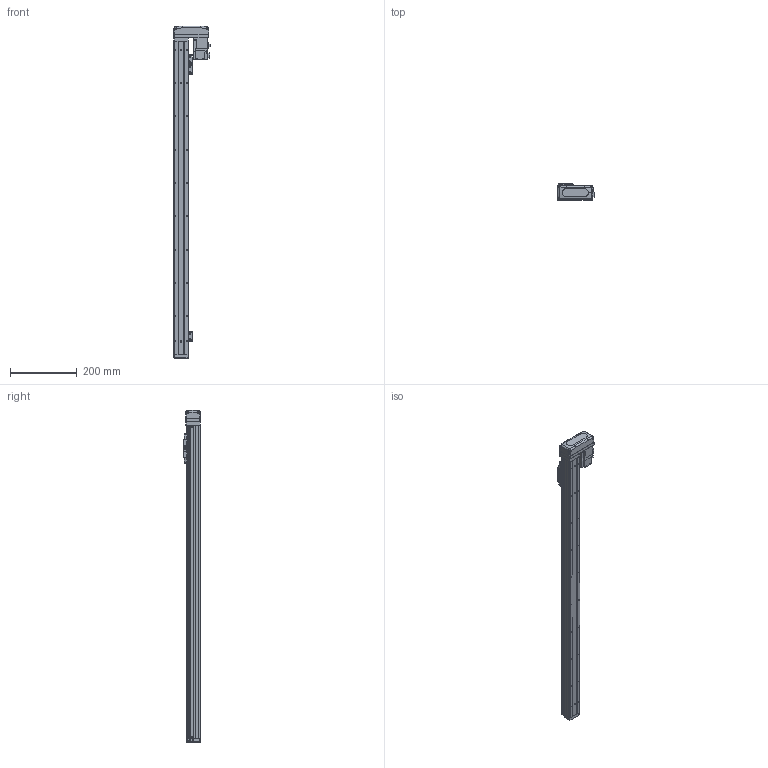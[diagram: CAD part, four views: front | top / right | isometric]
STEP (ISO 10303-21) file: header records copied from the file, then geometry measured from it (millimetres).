
FILE_DESCRIPTION (( 'STEP AP203' ), '1' );
FILE_NAME ('GTH4-800-BL-M05-C4.step', '2023-08-28T00:41:47', ( '微软用户' ), ( '微软中国' ), 'SwSTEP 2.0', 'SolidWorks 2020', '' );
FILE_SCHEMA (( 'CONFIG_CONTROL_DESIGN' ));
Length unit declared in the file: millimetre
Products named in the file (19): BTH-M3X5X6; BTH50-026; BTH40-022; GBT70.1-2000 M3×16; GTH4-800-BL-M05-C4; GBT 70.1-M2.5×6; BTH50-028; BTH40-004; BTH50-023; BTH40-013; BTH40-001-50_BTH40-001-800; HG-KR13; BTH50-024; BTH40-003; GBT 70.3-M3℅6; GBT 70.1-M3℅6; BTH40-006; BTH40-027-1; GBT96.1-2002 3×0.8
Assembly tree (47 placements, depth 2):
  GTH4-800-BL-M05-C4
    BTH40-001-50_BTH40-001-800
    BTH40-003
    BTH40-006
    BTH-M3X5X6  x8
    GBT70.1-2000 M3×16  x4
    BTH50-028  x2
    BTH50-023  x3
    BTH50-024  x3
    GBT 70.1-M3℅6  x6
    GBT96.1-2002 3×0.8  x6
    BTH40-022
    GBT 70.1-M2.5×6  x2
    BTH40-004
    BTH40-013
    HG-KR13
    GBT 70.3-M3℅6  x4
    BTH40-027-1
    BTH50-026
Bounding box: 108.8 x 52 x 996 mm (x, y, z)
Volume: 1720275.1 mm3; surface area: 286914.2 mm2
Topology: 49 solids, 49 shells, 1975 faces, 4655 edges, 2870 vertices
Faces by surface type: plane 1052, cylinder 507, cone 250, torus 128, bspline 34, sphere 4
Entity records: 39635 total; most frequent: CARTESIAN_POINT 7586, DIRECTION 6208, ORIENTED_EDGE 5956, EDGE_CURVE 2978, AXIS2_PLACEMENT_3D 2127, VECTOR 1954, LINE 1954, VERTEX_POINT 1857
